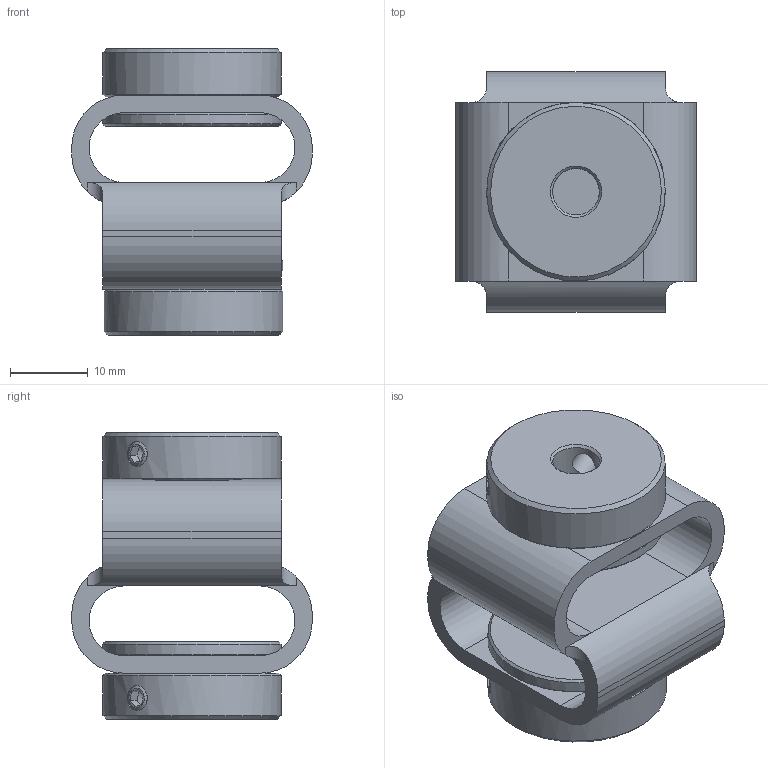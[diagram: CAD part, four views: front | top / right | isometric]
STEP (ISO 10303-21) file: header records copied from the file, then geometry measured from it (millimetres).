
FILE_DESCRIPTION(/* description */ (''),/* implementation_level */ '2;1');
FILE_NAME(/* name */ 'E:\ABP_bauteile\Doppelschlaufenkupplung\DKPS_3835\Doppelschlaufenkupplung_DKPS_3835_06_08.stp',/* time_stamp */ '2015-03-09T14:56:41+01:00',/* author */ ('Rob'),/* organization */ (''),/* preprocessor_version */ 'ST-DEVELOPER v15.6',/* originating_system */ 'Autodesk Inventor 2015',/* authorisation */ '');
FILE_SCHEMA (('CONFIG_CONTROL_DESIGN'));
Length unit declared in the file: millimetre
Products named in the file (1): Bauteil44
Bounding box: 31 x 31 x 36.95 mm (x, y, z)
Volume: 11964.6 mm3; surface area: 8023.6 mm2
Topology: 1 solids, 3 shells, 149 faces, 369 edges, 225 vertices
Faces by surface type: plane 84, cylinder 35, cone 30
Full cylindrical faces by diameter (mm): 3.242 x8, 6 x1, 8 x1, 14 x2, 15 x2, 23 x4
Entity records: 4237 total; most frequent: CARTESIAN_POINT 1081, DIRECTION 663, ORIENTED_EDGE 580, EDGE_CURVE 290, AXIS2_PLACEMENT_3D 260, EDGE_LOOP 205, VERTEX_POINT 191, FACE_OUTER_BOUND 149
